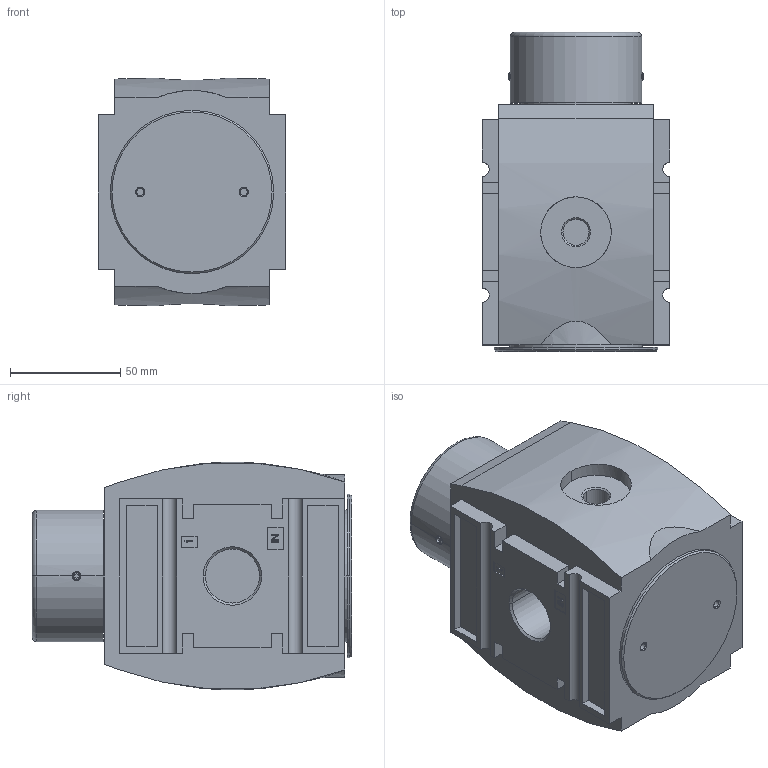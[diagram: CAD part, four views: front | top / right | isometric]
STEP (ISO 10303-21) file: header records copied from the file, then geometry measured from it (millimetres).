
FILE_DESCRIPTION((''),'2;1');
FILE_NAME('R412009094','2016-05-25T',('vol1hc'),(''),'PRO/ENGINEER BY PARAMETRIC TECHNOLOGY CORPORATION, 2012421','PRO/ENGINEER BY PARAMETRIC TECHNOLOGY CORPORATION, 2012421','');
FILE_SCHEMA(('CONFIG_CONTROL_DESIGN','SHAPE_APPEARANCE_LAYERS_GROUPS'));
Length unit declared in the file: millimetre
Products named in the file (1): R412009094
Bounding box: 85 x 144.6 x 103 mm (x, y, z)
Volume: 890274.7 mm3; surface area: 73872.2 mm2
Topology: 1 solids, 1 shells, 338 faces, 869 edges, 568 vertices
Faces by surface type: plane 264, cylinder 40, cone 32, torus 2
Entity records: 10690 total; most frequent: CARTESIAN_POINT 2317, ORIENTED_EDGE 1738, DIRECTION 1645, EDGE_CURVE 869, VECTOR 749, LINE 749, VERTEX_POINT 568, AXIS2_PLACEMENT_3D 448
